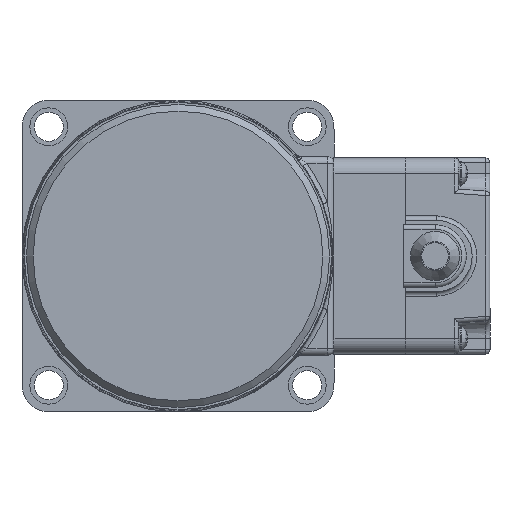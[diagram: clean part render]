
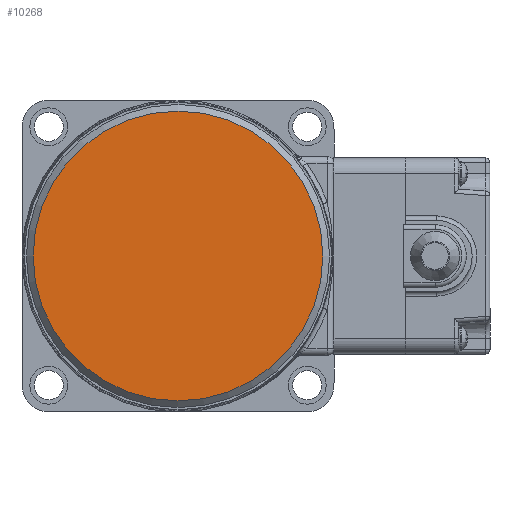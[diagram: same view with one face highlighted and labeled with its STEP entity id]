
A CAD part, left-side view. The second image highlights one B-rep face of the part: STEP entity #10268.
In plain terms, the highlighted planar face has unit normal (-1, 0, 0).
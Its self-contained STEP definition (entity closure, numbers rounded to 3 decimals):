
#2605=FACE_OUTER_BOUND('',#3226,.T.);
#3226=EDGE_LOOP('',(#8542));
#3792=CIRCLE('',#11271,32.5);
#4620=VERTEX_POINT('',#17652);
#5966=EDGE_CURVE('',#4620,#4620,#3792,.T.);
#8542=ORIENTED_EDGE('',*,*,#5966,.F.);
#9201=PLANE('',#11270);
#10268=ADVANCED_FACE('',(#2605),#9201,.T.);
#11270=AXIS2_PLACEMENT_3D('',#17651,#13911,#13912);
#11271=AXIS2_PLACEMENT_3D('',#17653,#13913,#13914);
#13911=DIRECTION('center_axis',(-1.,0.,0.));
#13912=DIRECTION('ref_axis',(0.,0.,1.));
#13913=DIRECTION('center_axis',(1.,0.,0.));
#13914=DIRECTION('ref_axis',(0.,1.,0.));
#17651=CARTESIAN_POINT('Origin',(0.,16.25,0.));
#17652=CARTESIAN_POINT('',(0.,32.5,0.));
#17653=CARTESIAN_POINT('Origin',(0.,0.,
0.));
